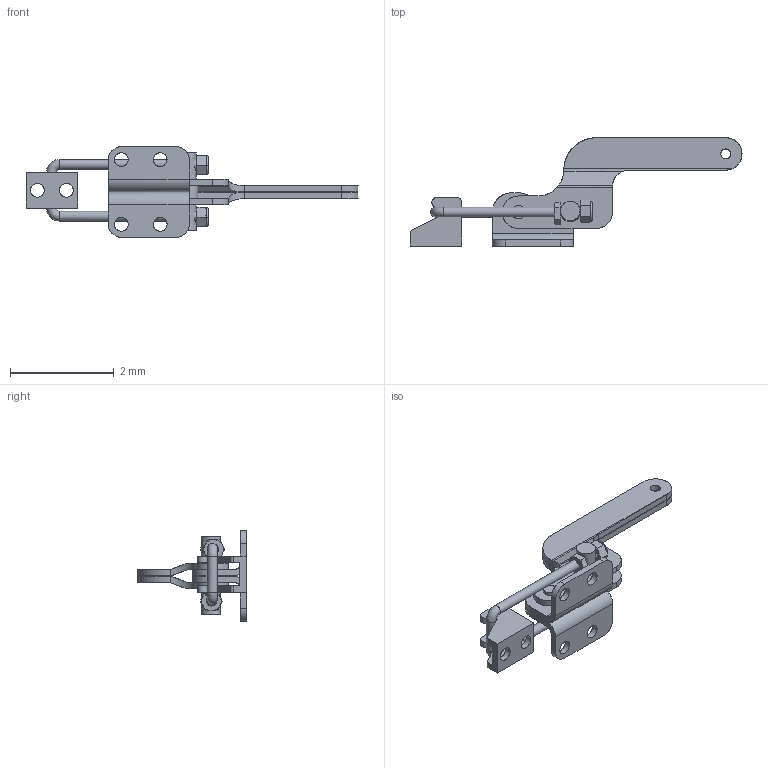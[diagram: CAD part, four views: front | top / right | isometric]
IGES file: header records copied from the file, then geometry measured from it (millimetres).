
Start section:  Autodesk DirectConnect version 7.0.27.0 ---- IGES version 5.3
Global section: file name: C:\Users\Nick\Desktop\PCU-700\3D\PCU700.igs; native system: Autodesk DirectConnect 7.0.27.0; preprocessor: 7.0.27.0; author: Nick; organization: Unknown; date: 20150626.163742; units: millimetre
Bounding box: 6.41 x 2.09 x 1.75 mm (x, y, z)
Surface area: 41.8 mm2 (no closed solid volume)
Topology: 0 solids, 0 shells, 311 faces, 2463 edges, 2434 vertices
Faces by surface type: bspline 311
